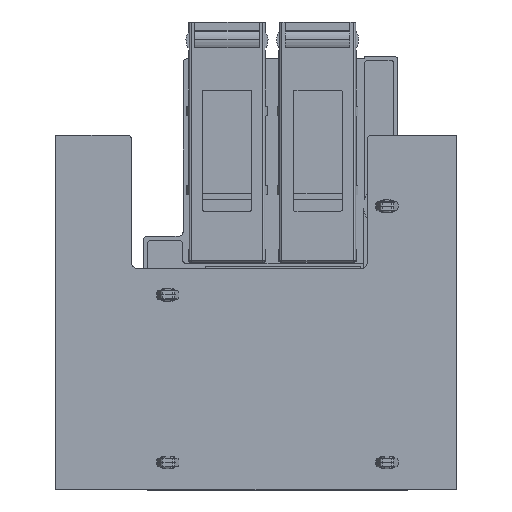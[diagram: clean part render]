
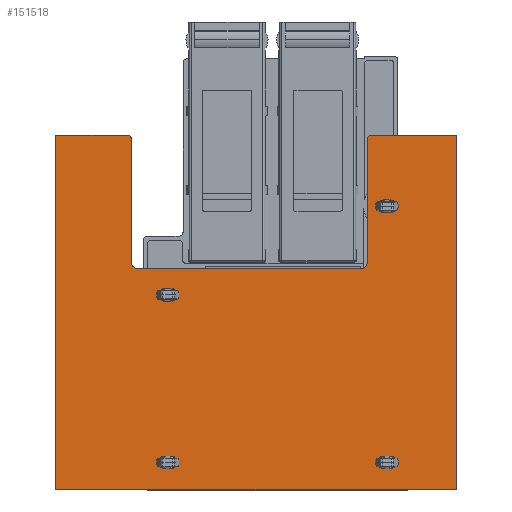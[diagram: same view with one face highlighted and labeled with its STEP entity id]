
A CAD part, front view. The second image highlights one B-rep face of the part: STEP entity #151518.
In plain terms, the highlighted planar face has unit normal (0, -1, 0).
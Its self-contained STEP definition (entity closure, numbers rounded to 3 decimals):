
#150723=DIRECTION('',(-1.,0.,0.));
#150724=VECTOR('',#150723,1.6);
#150725=CARTESIAN_POINT('',(100.2,-2.16,-465.9));
#150726=LINE('',#150725,#150724);
#150730=CARTESIAN_POINT('',(98.6,-2.16,-467.5));
#150731=DIRECTION('',(0.,-1.,0.));
#150732=DIRECTION('',(0.,0.,1.));
#150733=AXIS2_PLACEMENT_3D('',#150730,#150731,#150732);
#150738=DIRECTION('',(1.,0.,0.));
#150739=VECTOR('',#150738,1.6);
#150740=CARTESIAN_POINT('',(98.6,-2.16,-469.1));
#150741=LINE('',#150740,#150739);
#150745=CARTESIAN_POINT('',(100.2,-2.16,-467.5));
#150746=DIRECTION('',(0.,-1.,0.));
#150747=DIRECTION('',(0.,0.,-1.));
#150748=AXIS2_PLACEMENT_3D('',#150745,#150746,#150747);
#150753=DIRECTION('',(1.,0.,0.));
#150754=VECTOR('',#150753,1.6);
#150755=CARTESIAN_POINT('',(98.6,-2.16,-423.4));
#150756=LINE('',#150755,#150754);
#150760=CARTESIAN_POINT('',(98.6,-2.16,-425.));
#150761=DIRECTION('',(0.,1.,0.));
#150762=DIRECTION('',(0.,0.,-1.));
#150763=AXIS2_PLACEMENT_3D('',#150760,#150761,#150762);
#150768=DIRECTION('',(-1.,0.,0.));
#150769=VECTOR('',#150768,1.6);
#150770=CARTESIAN_POINT('',(100.2,-2.16,-426.6));
#150771=LINE('',#150770,#150769);
#150775=CARTESIAN_POINT('',(100.2,-2.16,-425.));
#150776=DIRECTION('',(0.,1.,0.));
#150777=DIRECTION('',(0.,0.,1.));
#150778=AXIS2_PLACEMENT_3D('',#150775,#150776,#150777);
#150783=CARTESIAN_POINT('',(44.6,-2.16,-425.));
#150784=DIRECTION('',(0.,1.,0.));
#150785=DIRECTION('',(0.,0.,1.));
#150786=AXIS2_PLACEMENT_3D('',#150783,#150784,#150785);
#150791=DIRECTION('',(1.,0.,0.));
#150792=VECTOR('',#150791,1.6);
#150793=CARTESIAN_POINT('',(43.,-2.16,-423.4));
#150794=LINE('',#150793,#150792);
#150798=CARTESIAN_POINT('',(43.,-2.16,-425.));
#150799=DIRECTION('',(0.,1.,0.));
#150800=DIRECTION('',(0.,0.,-1.));
#150801=AXIS2_PLACEMENT_3D('',#150798,#150799,#150800);
#150806=DIRECTION('',(-1.,0.,0.));
#150807=VECTOR('',#150806,1.6);
#150808=CARTESIAN_POINT('',(44.6,-2.16,-426.6));
#150809=LINE('',#150808,#150807);
#150813=CARTESIAN_POINT('',(44.6,-2.16,-490.));
#150814=DIRECTION('',(0.,1.,0.));
#150815=DIRECTION('',(0.,0.,1.));
#150816=AXIS2_PLACEMENT_3D('',#150813,#150814,#150815);
#150821=DIRECTION('',(1.,0.,0.));
#150822=VECTOR('',#150821,1.6);
#150823=CARTESIAN_POINT('',(43.,-2.16,-488.4));
#150824=LINE('',#150823,#150822);
#150828=CARTESIAN_POINT('',(43.,-2.16,-490.));
#150829=DIRECTION('',(0.,1.,0.));
#150830=DIRECTION('',(0.,0.,-1.));
#150831=AXIS2_PLACEMENT_3D('',#150828,#150829,#150830);
#150836=DIRECTION('',(-1.,0.,0.));
#150837=VECTOR('',#150836,1.6);
#150838=CARTESIAN_POINT('',(44.6,-2.16,-491.6));
#150839=LINE('',#150838,#150837);
#150843=CARTESIAN_POINT('',(47.77,-2.16,-507.));
#150844=DIRECTION('',(0.,-1.,0.));
#150845=DIRECTION('',(0.,0.,-1.));
#150846=AXIS2_PLACEMENT_3D('',#150843,#150844,#150845);
#150851=DIRECTION('',(1.,0.,0.));
#150852=VECTOR('',#150851,18.25);
#150853=CARTESIAN_POINT('',(109.62,-2.16,-508.));
#150854=LINE('',#150853,#150852);
#150858=CARTESIAN_POINT('',(109.62,-2.16,-507.));
#150859=DIRECTION('',(0.,-1.,0.));
#150860=DIRECTION('',(-1.,0.,0.));
#150861=AXIS2_PLACEMENT_3D('',#150858,#150859,#150860);
#150866=DIRECTION('',(0.,0.,1.));
#150867=VECTOR('',#150866,31.27);
#150868=CARTESIAN_POINT('',(108.62,-2.16,-507.));
#150869=LINE('',#150868,#150867);
#151149=DIRECTION('',(0.,0.,1.));
#151150=VECTOR('',#151149,31.27);
#151151=CARTESIAN_POINT('',(48.77,-2.16,-507.));
#151152=LINE('',#151151,#151150);
#151156=CARTESIAN_POINT('',(50.27,-2.16,-475.73));
#151157=DIRECTION('',(0.,1.,0.));
#151158=DIRECTION('',(-1.,0.,0.));
#151159=AXIS2_PLACEMENT_3D('',#151156,#151157,#151158);
#151193=DIRECTION('',(1.,0.,0.));
#151194=VECTOR('',#151193,56.85);
#151195=CARTESIAN_POINT('',(50.27,-2.16,-474.23));
#151196=LINE('',#151195,#151194);
#151200=CARTESIAN_POINT('',(107.12,-2.16,-475.73));
#151201=DIRECTION('',(0.,1.,0.));
#151202=DIRECTION('',(0.,0.,1.));
#151203=AXIS2_PLACEMENT_3D('',#151200,#151201,#151202);
#151265=DIRECTION('',(0.,0.,-1.));
#151266=VECTOR('',#151265,90.);
#151267=CARTESIAN_POINT('',(127.87,-2.16,-418.));
#151268=LINE('',#151267,#151266);
#151272=DIRECTION('',(1.,0.,0.));
#151273=VECTOR('',#151272,101.72);
#151274=CARTESIAN_POINT('',(26.15,-2.16,-418.));
#151275=LINE('',#151274,#151273);
#151293=DIRECTION('',(0.,0.,1.));
#151294=VECTOR('',#151293,90.);
#151295=CARTESIAN_POINT('',(26.15,-2.16,-508.));
#151296=LINE('',#151295,#151294);
#151314=DIRECTION('',(1.,0.,0.));
#151315=VECTOR('',#151314,21.62);
#151316=CARTESIAN_POINT('',(26.15,-2.16,-508.));
#151317=LINE('',#151316,#151315);
#151335=CARTESIAN_POINT('',(26.15,-2.16,-418.));
#151336=CARTESIAN_POINT('',(127.87,-2.16,-418.));
#151337=VERTEX_POINT('',#151335);
#151338=VERTEX_POINT('',#151336);
#151339=CARTESIAN_POINT('',(26.15,-2.16,-508.));
#151340=VERTEX_POINT('',#151339);
#151341=CARTESIAN_POINT('',(43.,-2.16,-423.4));
#151342=CARTESIAN_POINT('',(44.6,-2.16,-423.4));
#151343=VERTEX_POINT('',#151341);
#151344=VERTEX_POINT('',#151342);
#151345=CARTESIAN_POINT('',(43.,-2.16,-488.4));
#151346=CARTESIAN_POINT('',(44.6,-2.16,-488.4));
#151347=VERTEX_POINT('',#151345);
#151348=VERTEX_POINT('',#151346);
#151355=CARTESIAN_POINT('',(43.,-2.16,-426.6));
#151357=VERTEX_POINT('',#151355);
#151359=CARTESIAN_POINT('',(44.6,-2.16,-426.6));
#151360=VERTEX_POINT('',#151359);
#151365=CARTESIAN_POINT('',(43.,-2.16,-491.6));
#151367=VERTEX_POINT('',#151365);
#151371=CARTESIAN_POINT('',(44.6,-2.16,-491.6));
#151372=VERTEX_POINT('',#151371);
#151373=CARTESIAN_POINT('',(127.87,-2.16,-508.));
#151374=VERTEX_POINT('',#151373);
#151383=CARTESIAN_POINT('',(47.77,-2.16,-508.));
#151384=VERTEX_POINT('',#151383);
#151389=CARTESIAN_POINT('',(48.77,-2.16,-507.));
#151390=VERTEX_POINT('',#151389);
#151395=CARTESIAN_POINT('',(108.62,-2.16,-507.));
#151396=VERTEX_POINT('',#151395);
#151397=CARTESIAN_POINT('',(109.62,-2.16,-508.));
#151398=VERTEX_POINT('',#151397);
#151399=CARTESIAN_POINT('',(107.12,-2.16,-474.23));
#151401=VERTEX_POINT('',#151399);
#151403=CARTESIAN_POINT('',(108.62,-2.16,-475.73));
#151405=VERTEX_POINT('',#151403);
#151407=CARTESIAN_POINT('',(48.77,-2.16,-475.73));
#151409=VERTEX_POINT('',#151407);
#151411=CARTESIAN_POINT('',(50.27,-2.16,-474.23));
#151413=VERTEX_POINT('',#151411);
#151423=CARTESIAN_POINT('',(98.6,-2.16,-423.4));
#151424=CARTESIAN_POINT('',(100.2,-2.16,-423.4));
#151425=VERTEX_POINT('',#151423);
#151426=VERTEX_POINT('',#151424);
#151427=CARTESIAN_POINT('',(98.6,-2.16,-426.6));
#151428=VERTEX_POINT('',#151427);
#151429=CARTESIAN_POINT('',(100.2,-2.16,-426.6));
#151430=VERTEX_POINT('',#151429);
#151439=CARTESIAN_POINT('',(100.2,-2.16,-465.9));
#151440=CARTESIAN_POINT('',(98.6,-2.16,-465.9));
#151441=VERTEX_POINT('',#151439);
#151442=VERTEX_POINT('',#151440);
#151443=CARTESIAN_POINT('',(98.6,-2.16,-469.1));
#151444=VERTEX_POINT('',#151443);
#151445=CARTESIAN_POINT('',(100.2,-2.16,-469.1));
#151446=VERTEX_POINT('',#151445);
#151447=CARTESIAN_POINT('',(0.,-2.16,0.));
#151448=DIRECTION('',(0.,1.,0.));
#151449=DIRECTION('',(0.,0.,1.));
#151450=AXIS2_PLACEMENT_3D('',#151447,#151448,#151449);
#151451=PLANE('',#151450);
#151453=ORIENTED_EDGE('',*,*,#151452,.F.);
#151455=ORIENTED_EDGE('',*,*,#151454,.F.);
#151457=ORIENTED_EDGE('',*,*,#151456,.F.);
#151459=ORIENTED_EDGE('',*,*,#151458,.F.);
#151461=ORIENTED_EDGE('',*,*,#151460,.F.);
#151463=ORIENTED_EDGE('',*,*,#151462,.T.);
#151465=ORIENTED_EDGE('',*,*,#151464,.T.);
#151467=ORIENTED_EDGE('',*,*,#151466,.T.);
#151469=ORIENTED_EDGE('',*,*,#151468,.F.);
#151471=ORIENTED_EDGE('',*,*,#151470,.F.);
#151473=ORIENTED_EDGE('',*,*,#151472,.T.);
#151475=ORIENTED_EDGE('',*,*,#151474,.F.);
#151476=EDGE_LOOP('',(#151453,#151455,#151457,#151459,#151461,#151463,#151465,
#151467,#151469,#151471,#151473,#151475));
#151477=FACE_OUTER_BOUND('',#151476,.F.);
#151479=ORIENTED_EDGE('',*,*,#151478,.F.);
#151481=ORIENTED_EDGE('',*,*,#151480,.F.);
#151483=ORIENTED_EDGE('',*,*,#151482,.F.);
#151485=ORIENTED_EDGE('',*,*,#151484,.F.);
#151486=EDGE_LOOP('',(#151479,#151481,#151483,#151485));
#151487=FACE_BOUND('',#151486,.F.);
#151489=ORIENTED_EDGE('',*,*,#151488,.F.);
#151491=ORIENTED_EDGE('',*,*,#151490,.F.);
#151493=ORIENTED_EDGE('',*,*,#151492,.F.);
#151495=ORIENTED_EDGE('',*,*,#151494,.F.);
#151496=EDGE_LOOP('',(#151489,#151491,#151493,#151495));
#151497=FACE_BOUND('',#151496,.F.);
#151499=ORIENTED_EDGE('',*,*,#151498,.F.);
#151501=ORIENTED_EDGE('',*,*,#151500,.F.);
#151503=ORIENTED_EDGE('',*,*,#151502,.F.);
#151505=ORIENTED_EDGE('',*,*,#151504,.F.);
#151506=EDGE_LOOP('',(#151499,#151501,#151503,#151505));
#151507=FACE_BOUND('',#151506,.F.);
#151509=ORIENTED_EDGE('',*,*,#151508,.T.);
#151511=ORIENTED_EDGE('',*,*,#151510,.T.);
#151513=ORIENTED_EDGE('',*,*,#151512,.T.);
#151515=ORIENTED_EDGE('',*,*,#151514,.T.);
#151516=EDGE_LOOP('',(#151509,#151511,#151513,#151515));
#151517=FACE_BOUND('',#151516,.F.);
#150734=CIRCLE('',#150733,1.6);
#150749=CIRCLE('',#150748,1.6);
#150764=CIRCLE('',#150763,1.6);
#150779=CIRCLE('',#150778,1.6);
#150787=CIRCLE('',#150786,1.6);
#150802=CIRCLE('',#150801,1.6);
#150817=CIRCLE('',#150816,1.6);
#150832=CIRCLE('',#150831,1.6);
#150847=CIRCLE('',#150846,1.);
#150862=CIRCLE('',#150861,1.);
#151160=CIRCLE('',#151159,1.5);
#151204=CIRCLE('',#151203,1.5);
#151452=EDGE_CURVE('',#151413,#151401,#151196,.T.);
#151454=EDGE_CURVE('',#151409,#151413,#151160,.T.);
#151456=EDGE_CURVE('',#151390,#151409,#151152,.T.);
#151458=EDGE_CURVE('',#151384,#151390,#150847,.T.);
#151460=EDGE_CURVE('',#151340,#151384,#151317,.T.);
#151462=EDGE_CURVE('',#151340,#151337,#151296,.T.);
#151464=EDGE_CURVE('',#151337,#151338,#151275,.T.);
#151466=EDGE_CURVE('',#151338,#151374,#151268,.T.);
#151468=EDGE_CURVE('',#151398,#151374,#150854,.T.);
#151470=EDGE_CURVE('',#151396,#151398,#150862,.T.);
#151472=EDGE_CURVE('',#151396,#151405,#150869,.T.);
#151474=EDGE_CURVE('',#151401,#151405,#151204,.T.);
#151478=EDGE_CURVE('',#151425,#151426,#150756,.T.);
#151480=EDGE_CURVE('',#151428,#151425,#150764,.T.);
#151482=EDGE_CURVE('',#151430,#151428,#150771,.T.);
#151484=EDGE_CURVE('',#151426,#151430,#150779,.T.);
#151488=EDGE_CURVE('',#151344,#151360,#150787,.T.);
#151490=EDGE_CURVE('',#151343,#151344,#150794,.T.);
#151492=EDGE_CURVE('',#151357,#151343,#150802,.T.);
#151494=EDGE_CURVE('',#151360,#151357,#150809,.T.);
#151498=EDGE_CURVE('',#151348,#151372,#150817,.T.);
#151500=EDGE_CURVE('',#151347,#151348,#150824,.T.);
#151502=EDGE_CURVE('',#151367,#151347,#150832,.T.);
#151504=EDGE_CURVE('',#151372,#151367,#150839,.T.);
#151508=EDGE_CURVE('',#151441,#151442,#150726,.T.);
#151510=EDGE_CURVE('',#151442,#151444,#150734,.T.);
#151512=EDGE_CURVE('',#151444,#151446,#150741,.T.);
#151514=EDGE_CURVE('',#151446,#151441,#150749,.T.);
#151518=ADVANCED_FACE('',(#151477,#151487,#151497,#151507,#151517),#151451,.F.);
